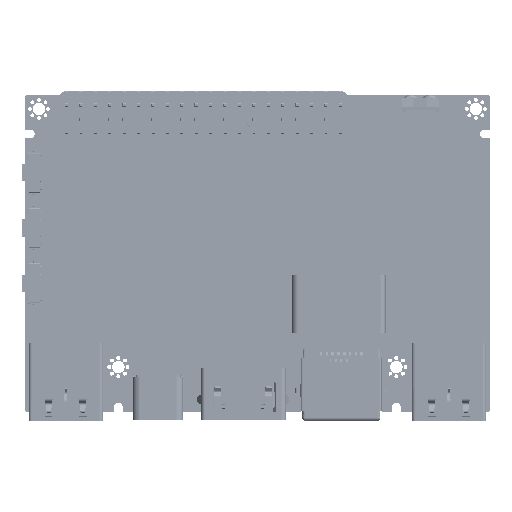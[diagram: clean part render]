
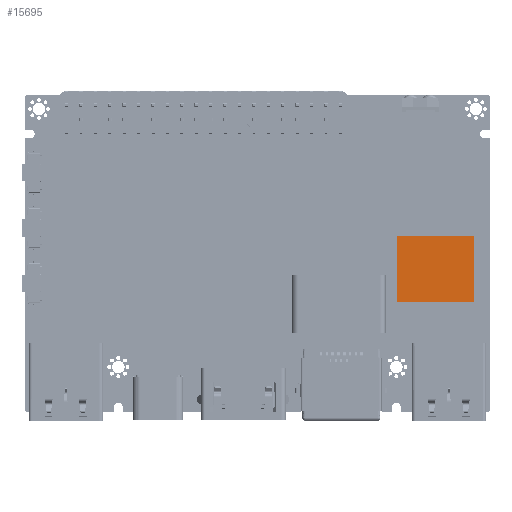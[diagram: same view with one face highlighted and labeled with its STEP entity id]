
A CAD part, top view. The second image highlights one B-rep face of the part: STEP entity #15695.
In plain terms, the highlighted planar face has unit normal (0, 0, 1) as drawn and (0, 1, 0) by its records, which use the part's own axes.
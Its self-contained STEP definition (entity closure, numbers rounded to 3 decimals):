
#1870 = CARTESIAN_POINT ( 'NONE',  ( 6.8, 1.8, -5.8 ) ) ;
#2112 = CARTESIAN_POINT ( 'NONE',  ( -6.8, 1.8, -5.8 ) ) ;
#6971 = LINE ( 'NONE', #266274, #227758 ) ;
#15695 = ADVANCED_FACE ( 'NONE', ( #275101 ), #63005, .T. ) ;
#18075 = CARTESIAN_POINT ( 'NONE',  ( -6.8, 1.8, 5.8 ) ) ;
#30056 = EDGE_LOOP ( 'NONE', ( #94971, #202634, #95054, #196621 ) ) ;
#33403 = CARTESIAN_POINT ( 'NONE',  ( 6.8, 1.8, -5.8 ) ) ;
#38102 = LINE ( 'NONE', #2112, #262484 ) ;
#55660 = CARTESIAN_POINT ( 'NONE',  ( -6.8, 1.8, -5.8 ) ) ;
#63005 = PLANE ( 'NONE',  #132858 ) ;
#78852 = EDGE_CURVE ( 'NONE', #187665, #141165, #159237, .T. ) ;
#87099 = DIRECTION ( 'NONE',  ( 0., 1., 0. ) ) ;
#88099 = DIRECTION ( 'NONE',  ( 0., 0., 1. ) ) ;
#94971 = ORIENTED_EDGE ( 'NONE', *, *, #154144, .T. ) ;
#95054 = ORIENTED_EDGE ( 'NONE', *, *, #127710, .T. ) ;
#101271 = DIRECTION ( 'NONE',  ( 0., 0., -1. ) ) ;
#102349 = VERTEX_POINT ( 'NONE', #55660 ) ;
#114240 = VECTOR ( 'NONE', #101271, 1000. ) ;
#116389 = LINE ( 'NONE', #176883, #307088 ) ;
#123101 = DIRECTION ( 'NONE',  ( 0., 0., 1. ) ) ;
#127710 = EDGE_CURVE ( 'NONE', #141165, #102349, #38102, .T. ) ;
#131940 = DIRECTION ( 'NONE',  ( 1., 0., 0. ) ) ;
#132858 = AXIS2_PLACEMENT_3D ( 'NONE', #302348, #87099, #88099 ) ;
#141165 = VERTEX_POINT ( 'NONE', #33403 ) ;
#154144 = EDGE_CURVE ( 'NONE', #200183, #187665, #116389, .T. ) ;
#159237 = LINE ( 'NONE', #1870, #114240 ) ;
#166374 = DIRECTION ( 'NONE',  ( -1., 0., 0. ) ) ;
#176883 = CARTESIAN_POINT ( 'NONE',  ( -6.8, 1.8, 5.8 ) ) ;
#187665 = VERTEX_POINT ( 'NONE', #207780 ) ;
#196621 = ORIENTED_EDGE ( 'NONE', *, *, #210288, .T. ) ;
#200183 = VERTEX_POINT ( 'NONE', #18075 ) ;
#202634 = ORIENTED_EDGE ( 'NONE', *, *, #78852, .T. ) ;
#207780 = CARTESIAN_POINT ( 'NONE',  ( 6.8, 1.8, 5.8 ) ) ;
#210288 = EDGE_CURVE ( 'NONE', #102349, #200183, #6971, .T. ) ;
#227758 = VECTOR ( 'NONE', #123101, 1000. ) ;
#262484 = VECTOR ( 'NONE', #166374, 1000. ) ;
#266274 = CARTESIAN_POINT ( 'NONE',  ( -6.8, 1.8, -5.8 ) ) ;
#275101 = FACE_OUTER_BOUND ( 'NONE', #30056, .T. ) ;
#302348 = CARTESIAN_POINT ( 'NONE',  ( 0., 1.8, 0. ) ) ;
#307088 = VECTOR ( 'NONE', #131940, 1000. ) ;
